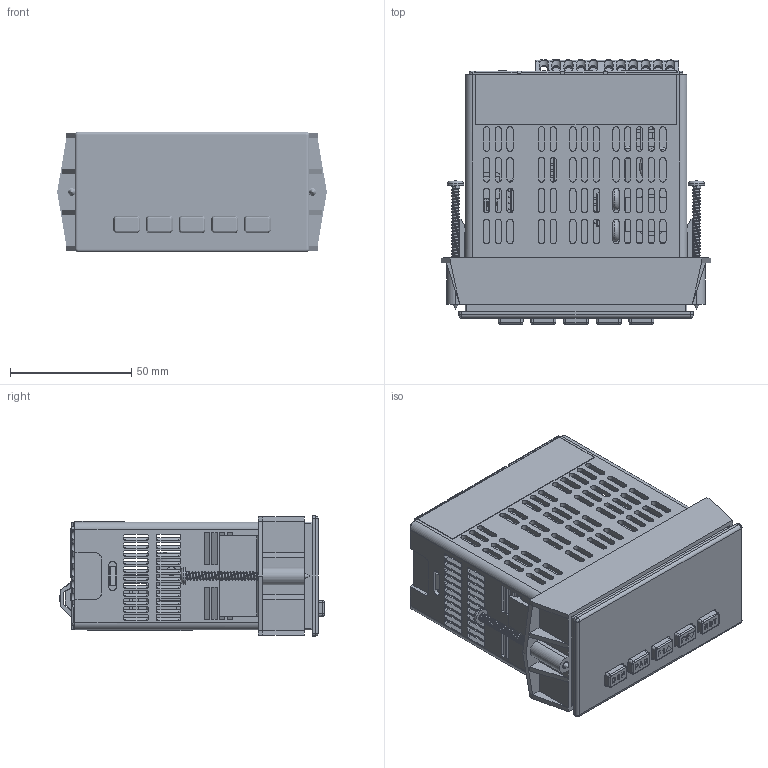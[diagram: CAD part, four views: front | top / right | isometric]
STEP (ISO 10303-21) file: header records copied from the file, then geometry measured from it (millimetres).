
FILE_DESCRIPTION(/* description */ ('Unknown'),/* implementation_level */ '2;1');
FILE_NAME(/* name */ 'PAXD',/* time_stamp */ '2016-05-19T11:30:25-04:00',/* author */ ('Unknown'),/* organization */ ('Unknown'),/* preprocessor_version */ 'ST-DEVELOPER v16.7',/* originating_system */ 'DEX',/* authorisation */ $);
FILE_SCHEMA (('AUTOMOTIVE_DESIGN {1 0 10303 214 3 1 1}'));
Products named in the file (14): PAXD; CA002122; LABEL LB02436D; LABEL LB02238X; PAX PCB ASSY; PAX MAIN PCB; PAXI DISPLAY PCB; HD10A0KE; HWSTQP64; CV002123; CV002124; GK002136; HWMCLP09; LABEL LB02437B
Assembly tree (16 placements, depth 3):
  PAXD
    CA002122
    LABEL LB02436D
    LABEL LB02238X
    PAX PCB ASSY
      PAX MAIN PCB
      PAXI DISPLAY PCB
      HD10A0KE  x3
    HWSTQP64  x2
    CV002123
    CV002124
    GK002136
    HWMCLP09
    LABEL LB02437B
Bounding box: 111.07 x 108.89 x 49.53 mm (x, y, z)
Volume: 146607.1 mm3; surface area: 154406.1 mm2
Topology: 16 solids, 16 shells, 4052 faces, 10736 edges, 6979 vertices
Faces by surface type: plane 2977, cylinder 605, bspline 328, cone 115, torus 19, sphere 8
Full cylindrical faces by diameter (mm): 0.61 x6, 1.27 x10, 1.651 x2, 3.226 x2, 3.505 x72, 3.81 x11, 5.283 x1, 6.528 x2, 6.68 x2, 8.128 x5, 10.211 x1, 16.154 x1
Entity records: 148386 total; most frequent: CARTESIAN_POINT 50440, ORIENTED_EDGE 18818, DIRECTION 16116, EDGE_CURVE 9409, LINE 7006, VECTOR 7006, VERTEX_POINT 6183, AXIS2_PLACEMENT_3D 4555
